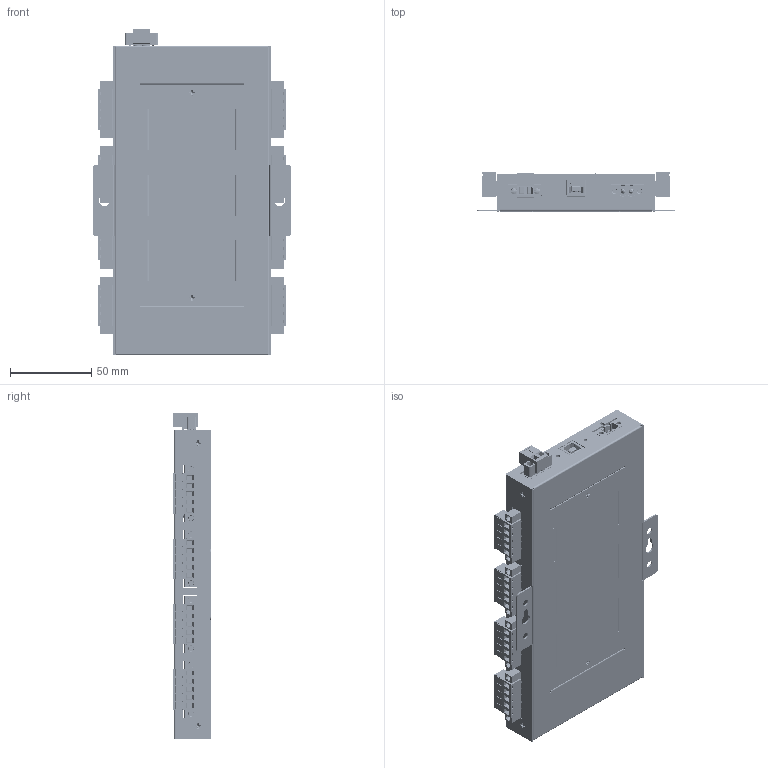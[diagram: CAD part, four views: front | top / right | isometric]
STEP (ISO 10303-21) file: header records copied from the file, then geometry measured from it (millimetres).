
FILE_DESCRIPTION(/* description */ (''),/* implementation_level */ '2;1');
FILE_NAME(/* name */ '/Users/leo/Desktop/Coolgear May/USB2-8COMi-SI-TB/USB2-8COMi-SI-TB Model3D LPV1.step',/* time_stamp */ '2021-08-20T12:22:39-04:00',/* author */ (''),/* organization */ (''),/* preprocessor_version */ 'ST-DEVELOPER v18.1',/* originating_system */ 'Autodesk Translation Framework v10.9.0.1377',/* authorisation */ '');
FILE_SCHEMA (('AUTOMOTIVE_DESIGN { 1 0 10303 214 3 1 1 }'));
Products named in the file (114): USB2-8COMi-SI-TB; Component1; 93090A548_Press-Fit Threaded Standoffs; Component3; Component4; connector green 5 pin female block assamble v2; connector green 5 pin female block assamble v2_1; connector green 5 pin female block assamble v2_2; connector green 5 pin female block assamble v2_3; connector geen 5 block terminal male v1; Component2; connector green 5 pin female block assamble v2(Mirror); connector geen 5 block terminal male v1(Mirror); Component2(Mirror); Connector green Phoenix female screw nut 5.08 v4; Component1 (1); Connector green Phoenix Screw 2pines male 5.08 v4; 91793A067; Connector green Phoenix female screw nut 5.08 v4(Mirror); Component1 (1)(Mirror); USB type B first Gen White v3; Housing1; pin1; shielding; pin2; shielding_2; Housing3; 3mm_LED; led_energy (1); led_energy; led_pin.1.1.1 (1); led_pin.1.1.1; led_pin.2.1 (1); led_pin.2.1; 3mm_LED (1); led_energy (1) (1); led_pin.1.1.1 (1) (1); led_pin.2.1 (1) (1); 3mm_LED (1)_1; led_energy (1) (1)_1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
Assembly tree (175 placements, depth 5):
  USB2-8COMi-SI-TB
    Component1
    93090A548_Press-Fit Threaded Standoffs  x4
    Component3
    Component4
    connector green 5 pin female block assamble v2
      connector geen 5 block terminal male v1
      Component2
    connector green 5 pin female block assamble v2_1
      connector geen 5 block terminal male v1
      Component2
    connector green 5 pin female block assamble v2_2
      connector geen 5 block terminal male v1
      Component2
    connector green 5 pin female block assamble v2_3
      connector geen 5 block terminal male v1
      Component2
    connector green 5 pin female block assamble v2(Mirror)  x4
      connector geen 5 block terminal male v1(Mirror)
      Component2(Mirror)
    Connector green Phoenix female screw nut 5.08 v4
      Component1 (1)
      Connector green Phoenix Screw 2pines male 5.08 v4
        91793A067  x2
    Connector green Phoenix female screw nut 5.08 v4(Mirror)
      Component1 (1)(Mirror)
    USB type B first Gen White v3
      Housing1
      pin1  x2
      shielding
      pin2  x2
      shielding_2
      Housing3
    3mm_LED
      led_energy (1)
        led_energy
      led_pin.1.1.1 (1)
        led_pin.1.1.1
      led_pin.2.1 (1)
        led_pin.2.1
    3mm_LED (1)
      led_energy (1) (1)
        led_energy (2)
      led_pin.1.1.1 (1) (1)
        led_pin.1.1.1 (2)
      led_pin.2.1 (1) (1)
        led_pin.2.1 (2)
    3mm_LED (1)_1
      led_energy (1) (1)_1
        led_energy (2)
      led_pin.1.1.1 (1) (1)_1
        led_pin.1.1.1 (2)
      led_pin.2.1 (1) (1)_1
        led_pin.2.1 (2)
    3mm_LED (1)_2
      led_energy (1) (1)_2
        led_energy (2)
      led_pin.1.1.1 (1) (1)_2
        led_pin.1.1.1 (2)
      led_pin.2.1 (1) (1)_2
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Bounding box: 122 x 23.83 x 200.45 mm (x, y, z)
Volume: 149249.6 mm3; surface area: 230885.5 mm2
Topology: 5 solids, 10 shells, 10556 faces, 29295 edges, 18925 vertices
Faces by surface type: plane 8517, cylinder 1392, cone 278, torus 192, bspline 152, sphere 25
Full cylindrical faces by diameter (mm): 1.399 x44, 1.6 x18, 1.7 x8, 1.8 x16, 1.854 x42, 2 x2, 2.323 x14, 2.35 x24, 2.5 x16, 2.529 x10, 2.6 x16, 2.7 x4, 2.8 x40, 2.9 x17, 2.998 x17, 3 x80, 3.3 x40, 3.5 x4, 3.643 x17, 3.7 x16, 3.8 x32, 3.86 x2, 4 x82, 4.17 x4, 5.4 x4
Entity records: 365789 total; most frequent: CARTESIAN_POINT 95941, ORIENTED_EDGE 58212, DIRECTION 52322, EDGE_CURVE 29106, LINE 23004, VECTOR 23004, VERTEX_POINT 18817, AXIS2_PLACEMENT_3D 14659
